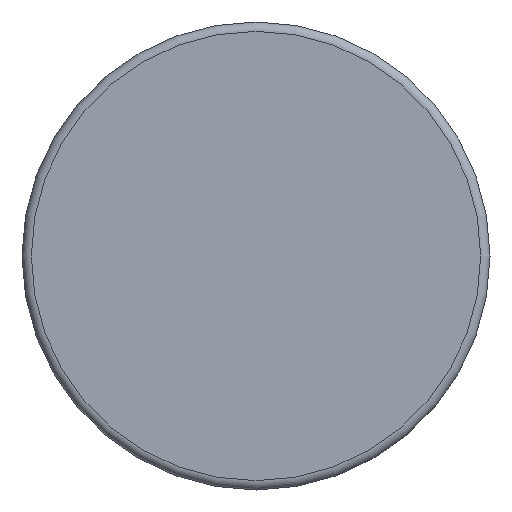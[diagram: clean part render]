
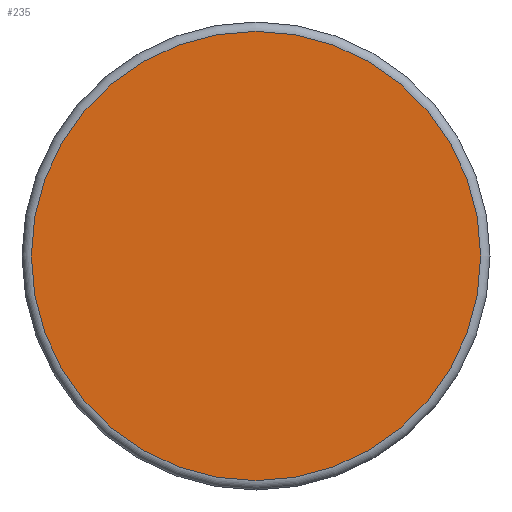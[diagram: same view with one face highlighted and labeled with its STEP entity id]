
A CAD part, front view. The second image highlights one B-rep face of the part: STEP entity #235.
In plain terms, the highlighted planar face has unit normal (0, -1, 0).
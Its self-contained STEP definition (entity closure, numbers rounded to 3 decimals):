
#235 = ADVANCED_FACE( '', ( #452 ), #453, .F. );
#452 = FACE_OUTER_BOUND( '', #652, .T. );
#453 = PLANE( '', #653 );
#652 = EDGE_LOOP( '', ( #1040 ) );
#653 = AXIS2_PLACEMENT_3D( '', #1041, #1042, #1043 );
#1040 = ORIENTED_EDGE( '', *, *, #1201, .T. );
#1041 = CARTESIAN_POINT( '', ( 24., 0., 0. ) );
#1042 = DIRECTION( '', ( 0., 1., 0. ) );
#1043 = DIRECTION( '', ( 0., 0., 1. ) );
#1201 = EDGE_CURVE( '', #1409, #1409, #1410, .T. );
#1409 = VERTEX_POINT( '', #1819 );
#1410 = CIRCLE( '', #1820, 24. );
#1819 = CARTESIAN_POINT( '', ( 0., 0., -24. ) );
#1820 = AXIS2_PLACEMENT_3D( '', #2075, #2076, #2077 );
#2075 = CARTESIAN_POINT( '', ( 0., 0., 0. ) );
#2076 = DIRECTION( '', ( 0., -1., 0. ) );
#2077 = DIRECTION( '', ( 0., 0., -1. ) );
